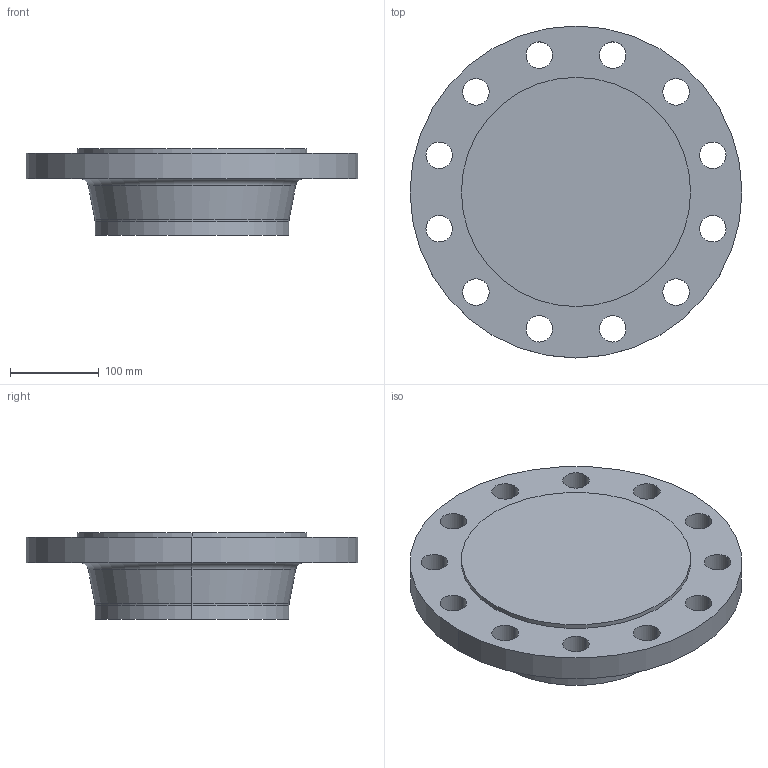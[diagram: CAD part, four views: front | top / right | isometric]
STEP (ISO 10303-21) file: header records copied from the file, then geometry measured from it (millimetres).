
FILE_DESCRIPTION (( 'STEP AP214' ), '1' );
FILE_NAME ('PN40 DN200 Type 21(ii) - Type E Face.STEP', '2019-01-05T01:59:56', ( '' ), ( '' ), 'SwSTEP 2.0', 'SolidWorks 2019', '' );
FILE_SCHEMA (( 'AUTOMOTIVE_DESIGN' ));
Length unit declared in the file: millimetre
Products named in the file (1): PN40 DN200 Type 21(ii) - Type E Face
Bounding box: 375 x 375 x 98 mm (x, y, z)
Volume: 5796968.2 mm3; surface area: 312426.8 mm2
Topology: 1 solids, 1 shells, 40 faces, 102 edges, 66 vertices
Faces by surface type: cylinder 30, torus 4, plane 4, cone 2
Entity records: 1330 total; most frequent: DIRECTION 254, CARTESIAN_POINT 209, ORIENTED_EDGE 204, AXIS2_PLACEMENT_3D 111, EDGE_CURVE 102, CIRCLE 70, EDGE_LOOP 66, VERTEX_POINT 66
